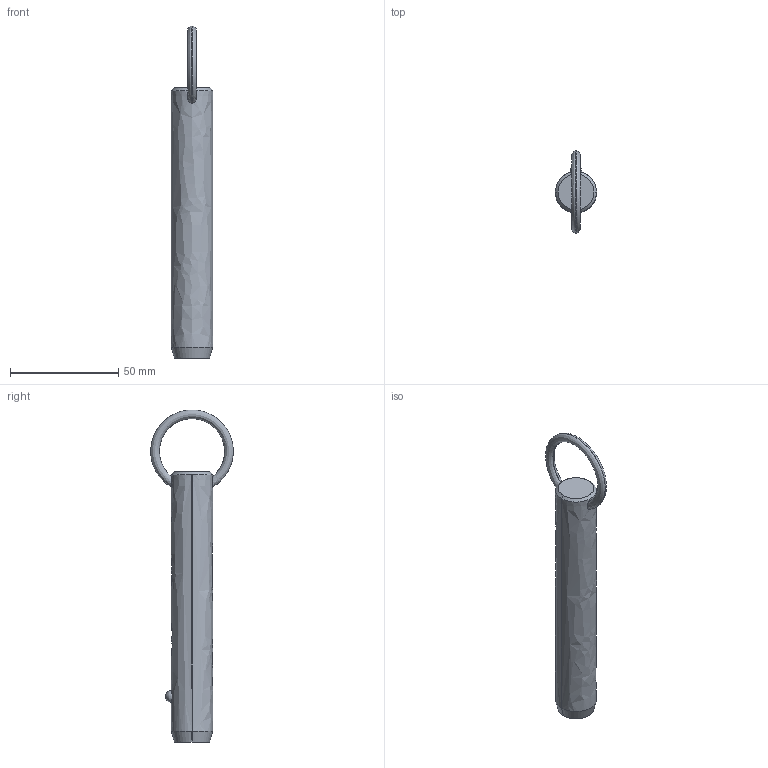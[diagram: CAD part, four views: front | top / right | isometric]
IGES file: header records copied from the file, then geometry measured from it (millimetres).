
Start section: SolidWorks IGES file using analytic representation for surfaces
Global section: file name: C:\Users\liam_\OneDrive\Documents\WORK\Work for WixRoyd\Job Files\J-00019 - Matt Davis CAD Checking\04. CAD Drawings\automotion20190605\P1250.2_v2\P1250.2_v2_20190729_IGES\P1250.075-360.igs; native system: SolidWorks 2017; preprocessor: SolidWorks 2017; author: liam_; date: 190729.235258; units: millimetre
Bounding box: 19 x 38.08 x 153.2 mm (x, y, z)
Surface area: 8970.2 mm2 (no closed solid volume)
Topology: 0 solids, 0 shells, 12 faces, 294 edges, 292 vertices
Faces by surface type: revolution 8, bspline 4
